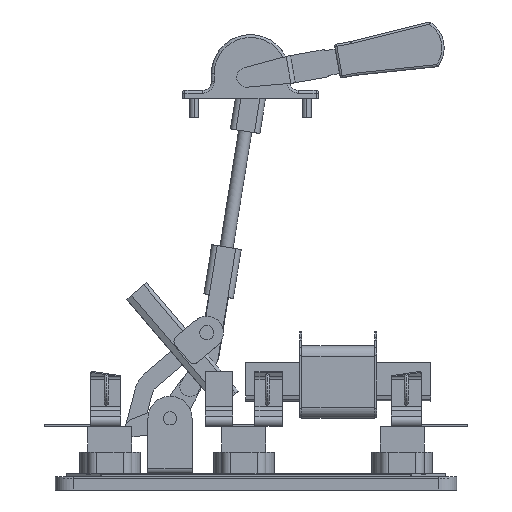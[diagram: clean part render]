
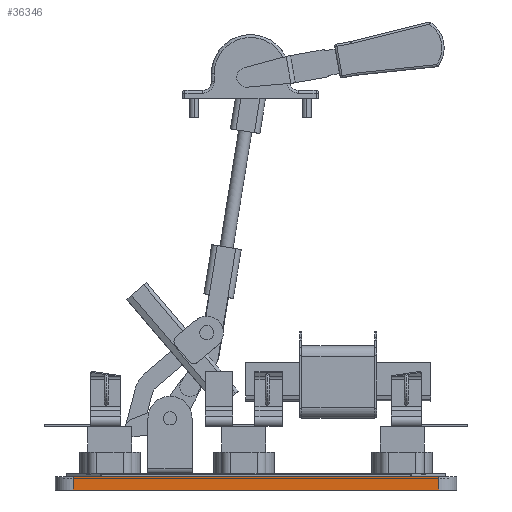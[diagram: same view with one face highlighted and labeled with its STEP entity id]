
A CAD part, left-side view. The second image highlights one B-rep face of the part: STEP entity #36346.
In plain terms, the highlighted planar face has unit normal (-1, 0, 0).
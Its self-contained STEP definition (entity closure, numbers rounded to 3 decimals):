
#1089 = ORIENTED_EDGE ( 'NONE', *, *, #5148, .T. ) ;
#4862 = CARTESIAN_POINT ( 'NONE',  ( -132., -243.8, -15. ) ) ;
#5148 = EDGE_CURVE ( 'NONE', #26002, #8060, #41681, .T. ) ;
#5947 = CARTESIAN_POINT ( 'NONE',  ( -132., 104., -3. ) ) ;
#7489 = VECTOR ( 'NONE', #56767, 1000. ) ;
#8060 = VERTEX_POINT ( 'NONE', #47692 ) ;
#9086 = LINE ( 'NONE', #5947, #7489 ) ;
#9242 = FACE_OUTER_BOUND ( 'NONE', #61671, .T. ) ;
#12887 = VECTOR ( 'NONE', #49913, 1000. ) ;
#13869 = AXIS2_PLACEMENT_3D ( 'NONE', #49984, #45147, #45804 ) ;
#14430 = EDGE_CURVE ( 'NONE', #22808, #26002, #43464, .T. ) ;
#21703 = DIRECTION ( 'NONE',  ( 0., -1., 0. ) ) ;
#22203 = ORIENTED_EDGE ( 'NONE', *, *, #14430, .T. ) ;
#22808 = VERTEX_POINT ( 'NONE', #29633 ) ;
#26002 = VERTEX_POINT ( 'NONE', #58086 ) ;
#29633 = CARTESIAN_POINT ( 'NONE',  ( -132., 87.8, -15. ) ) ;
#34985 = EDGE_CURVE ( 'NONE', #45217, #8060, #9086, .T. ) ;
#34987 = ORIENTED_EDGE ( 'NONE', *, *, #34985, .F. ) ;
#35306 = LINE ( 'NONE', #45234, #47273 ) ;
#36346 = ADVANCED_FACE ( 'NONE', ( #9242 ), #55770, .T. ) ;
#36447 = CARTESIAN_POINT ( 'NONE',  ( -132., 104., -15. ) ) ;
#41681 = LINE ( 'NONE', #4862, #12887 ) ;
#43464 = LINE ( 'NONE', #36447, #46642 ) ;
#45147 = DIRECTION ( 'NONE',  ( -1., 0., 0. ) ) ;
#45217 = VERTEX_POINT ( 'NONE', #47869 ) ;
#45234 = CARTESIAN_POINT ( 'NONE',  ( -132., 87.8, -15. ) ) ;
#45804 = DIRECTION ( 'NONE',  ( 0., -1., 0. ) ) ;
#46642 = VECTOR ( 'NONE', #21703, 1000. ) ;
#46757 = DIRECTION ( 'NONE',  ( 0., 0., -1. ) ) ;
#47273 = VECTOR ( 'NONE', #46757, 1000. ) ;
#47692 = CARTESIAN_POINT ( 'NONE',  ( -132., -243.8, -3. ) ) ;
#47869 = CARTESIAN_POINT ( 'NONE',  ( -132., 87.8, -3. ) ) ;
#49913 = DIRECTION ( 'NONE',  ( 0., 0., 1. ) ) ;
#49984 = CARTESIAN_POINT ( 'NONE',  ( -132., 104., -15. ) ) ;
#54612 = EDGE_CURVE ( 'NONE', #45217, #22808, #35306, .T. ) ;
#55770 = PLANE ( 'NONE',  #13869 ) ;
#56767 = DIRECTION ( 'NONE',  ( 0., -1., 0. ) ) ;
#58086 = CARTESIAN_POINT ( 'NONE',  ( -132., -243.8, -15. ) ) ;
#61671 = EDGE_LOOP ( 'NONE', ( #34987, #61787, #22203, #1089 ) ) ;
#61787 = ORIENTED_EDGE ( 'NONE', *, *, #54612, .T. ) ;
